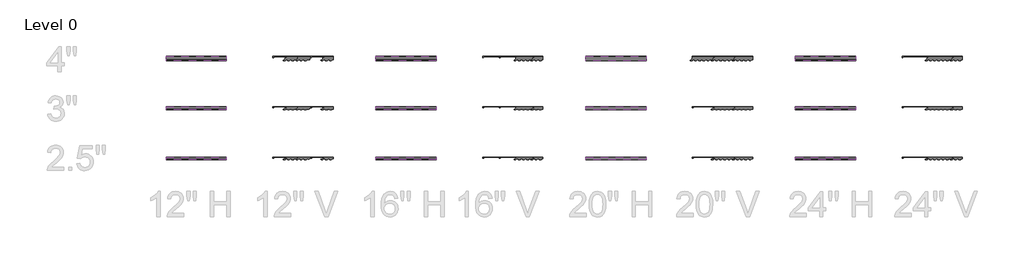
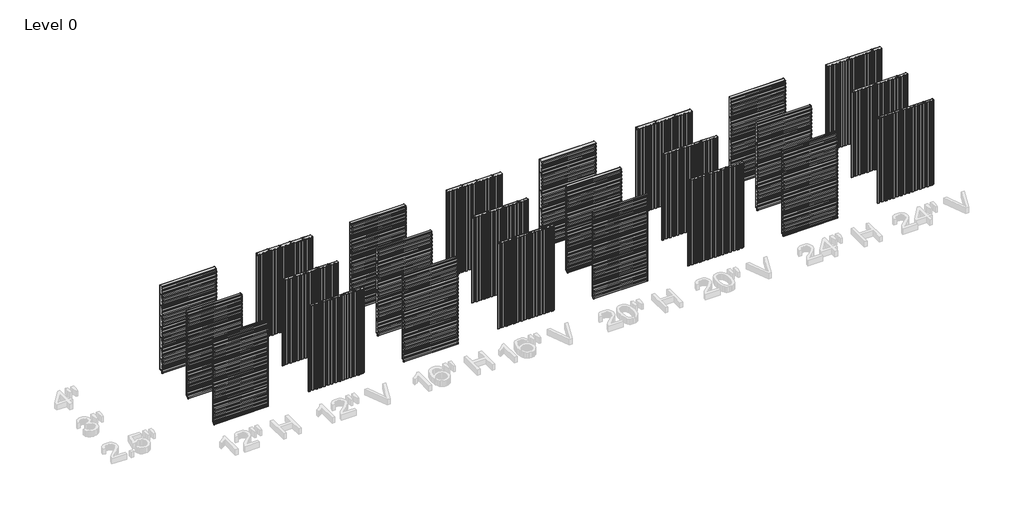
# One storey, part 1 of 4: 114 plates.
"""IFC4 building model written with IfcOpenShell, lengths in millimetres."""

from ifc_helpers import new_model, si_unit, origin, place, context, project, spatial, transform, mapped, element, save
from components import plate_f2263944, plate_a90ba0c7, plate_f76aa271, plate_0d2cc28e, plate_cadf4e08, plate_6dabd823, plate_841f3068, plate_0b422c3b, plate_007a45e4, plate_71929f34, plate_802be9a2, plate_af4c6692, plate_fe4b7c26, plate_03a4a3e5, plate_acb0d70a, plate_0c2debc7, plate_668f9a29, plate_e6cba630, plate_ecc888f3, plate_517b7de6, plate_303e1e0d, plate_3b02127c, plate_610f1c4d, plate_639d0140, plate_8d839006, plate_a0e9844f, plate_41a4497b, plate_4f0dd49a, plate_beac2ef0, plate_59d61003, plate_76acf641, plate_69ded947, plate_04d943ac, plate_1c8a40f6, plate_c36fa436, plate_729f4142, plate_f83834ac, plate_98024638, plate_81f33b46, plate_a3e9c651, plate_fcdffee8, plate_10fc69c3, plate_2a43e05b, plate_eade193c, plate_20f1ea8d

model = new_model("IFC4")

# Units and contexts
model_context = context("Model", 3, world=origin())
ifc_project = project(units=[si_unit("LENGTHUNIT", "METRE", prefix="MILLI")], contexts=[model_context])

# Site, building, storey
site = spatial("IfcSite", under=ifc_project)
building = spatial("IfcBuilding", under=site)
storey = spatial("IfcBuildingStorey", under=building, Name="Level 0", Elevation=0.0)

# Plates
placement = place(None, origin())
plate_shape = plate_f2263944(model_context)
element("IfcPlate", 1, ObjectType="KIP-20-DWR-R19-CP-Hz-S : Hz 2.5\"", at=placement, inside=storey, context=model_context, shape_type="MappedRepresentation", body=[
    mapped(plate_shape, transform((-18943.1576736, 10849.115943, 0.0), x_axis=(1.0, 0.0, 0.0), y_axis=(0.0, 1.0, 0.0), z_axis=(0.0, 0.0, 1.0))),
])
element("IfcPlate", 2, ObjectType="KIP-20-DWR-R19-CP-Hz-S : Hz 2.5\"", at=placement, inside=storey, context=model_context, shape_type="MappedRepresentation", body=[
    mapped(plate_shape, transform((-18943.1576736, 10849.115943, 508.0), x_axis=(1.0, 0.0, 0.0), y_axis=(0.0, 1.0, 0.0), z_axis=(0.0, 0.0, 1.0))),
])
element("IfcPlate", 3, ObjectType="KIP-20-DWR-R19-CP-Hz-S : Hz 2.5\"", at=placement, inside=storey, context=model_context, shape_type="MappedRepresentation", body=[
    mapped(plate_shape, transform((-18943.1576736, 10849.115943, 1016.0), x_axis=(1.0, 0.0, 0.0), y_axis=(0.0, 1.0, 0.0), z_axis=(0.0, 0.0, 1.0))),
])
element("IfcPlate", 4, ObjectType="KIP-20-DWR-R19-CP-Hz-S : Hz 2.5\"", at=placement, inside=storey, context=model_context, shape_type="MappedRepresentation", body=[
    mapped(plate_shape, transform((-18943.1576736, 10849.115943, 1524.0), x_axis=(1.0, 0.0, 0.0), y_axis=(0.0, 1.0, 0.0), z_axis=(0.0, 0.0, 1.0))),
])
plate_2_shape = plate_a90ba0c7(model_context)
element("IfcPlate", 5, ObjectType="KIP-20-DWR-R19-CP-Hz-S : Hz 2.5\"", at=placement, inside=storey, context=model_context, shape_type="MappedRepresentation", body=[
    mapped(plate_2_shape, transform((-18943.1576736, 10849.115943, 2032.0), x_axis=(1.0, 0.0, 0.0), y_axis=(0.0, 1.0, 0.0), z_axis=(0.0, 0.0, 1.0))),
])
plate_3_shape = plate_f76aa271(model_context)
element("IfcPlate", 6, ObjectType="KIP-24-DWR-R19-CP-Hz-S : Hz 2.5\"", at=placement, inside=storey, context=model_context, shape_type="MappedRepresentation", body=[
    mapped(plate_3_shape, transform((-13863.1576736, 10849.115943, 0.0), x_axis=(1.0, 0.0, 0.0), y_axis=(0.0, 1.0, 0.0), z_axis=(0.0, 0.0, 1.0))),
])
element("IfcPlate", 7, ObjectType="KIP-24-DWR-R19-CP-Hz-S : Hz 2.5\"", at=placement, inside=storey, context=model_context, shape_type="MappedRepresentation", body=[
    mapped(plate_3_shape, transform((-13863.1576736, 10849.115943, 609.6), x_axis=(1.0, 0.0, 0.0), y_axis=(0.0, 1.0, 0.0), z_axis=(0.0, 0.0, 1.0))),
])
element("IfcPlate", 8, ObjectType="KIP-24-DWR-R19-CP-Hz-S : Hz 2.5\"", at=placement, inside=storey, context=model_context, shape_type="MappedRepresentation", body=[
    mapped(plate_3_shape, transform((-13863.1576736, 10849.115943, 1219.2), x_axis=(1.0, 0.0, 0.0), y_axis=(0.0, 1.0, 0.0), z_axis=(0.0, 0.0, 1.0))),
])
plate_4_shape = plate_0d2cc28e(model_context)
element("IfcPlate", 9, ObjectType="KIP-24-DWR-R19-CP-Hz-S : Hz 2.5\"", at=placement, inside=storey, context=model_context, shape_type="MappedRepresentation", body=[
    mapped(plate_4_shape, transform((-13863.1576736, 10849.115943, 1828.8), x_axis=(1.0, 0.0, 0.0), y_axis=(0.0, 1.0, 0.0), z_axis=(0.0, 0.0, 1.0))),
])
plate_5_shape = plate_cadf4e08(model_context)
element("IfcPlate", 10, ObjectType="KIP-16-DWR-R19-CP-Hz-S : Hz 2.5\"", at=placement, inside=storey, context=model_context, shape_type="MappedRepresentation", body=[
    mapped(plate_5_shape, transform((-24023.1576736, 10849.115943, 0.0), x_axis=(1.0, 0.0, 0.0), y_axis=(0.0, 1.0, 0.0), z_axis=(0.0, 0.0, 1.0))),
])
element("IfcPlate", 11, ObjectType="KIP-16-DWR-R19-CP-Hz-S : Hz 2.5\"", at=placement, inside=storey, context=model_context, shape_type="MappedRepresentation", body=[
    mapped(plate_5_shape, transform((-24023.1576736, 10849.115943, 406.4), x_axis=(1.0, 0.0, 0.0), y_axis=(0.0, 1.0, 0.0), z_axis=(0.0, 0.0, 1.0))),
])
element("IfcPlate", 12, ObjectType="KIP-16-DWR-R19-CP-Hz-S : Hz 2.5\"", at=placement, inside=storey, context=model_context, shape_type="MappedRepresentation", body=[
    mapped(plate_5_shape, transform((-24023.1576736, 10849.115943, 812.8), x_axis=(1.0, 0.0, 0.0), y_axis=(0.0, 1.0, 0.0), z_axis=(0.0, 0.0, 1.0))),
])
element("IfcPlate", 13, ObjectType="KIP-16-DWR-R19-CP-Hz-S : Hz 2.5\"", at=placement, inside=storey, context=model_context, shape_type="MappedRepresentation", body=[
    mapped(plate_5_shape, transform((-24023.1576736, 10849.115943, 1219.2), x_axis=(1.0, 0.0, 0.0), y_axis=(0.0, 1.0, 0.0), z_axis=(0.0, 0.0, 1.0))),
])
element("IfcPlate", 14, ObjectType="KIP-16-DWR-R19-CP-Hz-S : Hz 2.5\"", at=placement, inside=storey, context=model_context, shape_type="MappedRepresentation", body=[
    mapped(plate_5_shape, transform((-24023.1576736, 10849.115943, 1625.6), x_axis=(1.0, 0.0, 0.0), y_axis=(0.0, 1.0, 0.0), z_axis=(0.0, 0.0, 1.0))),
])
plate_6_shape = plate_6dabd823(model_context)
element("IfcPlate", 15, ObjectType="KIP-12-DWR-R19-CP-Hz-S : Hz 2.5\"", at=placement, inside=storey, context=model_context, shape_type="MappedRepresentation", body=[
    mapped(plate_6_shape, transform((-29103.1576736, 10849.115943, 0.0), x_axis=(1.0, 0.0, 0.0), y_axis=(0.0, 1.0, 0.0), z_axis=(0.0, 0.0, 1.0))),
])
element("IfcPlate", 16, ObjectType="KIP-12-DWR-R19-CP-Hz-S : Hz 2.5\"", at=placement, inside=storey, context=model_context, shape_type="MappedRepresentation", body=[
    mapped(plate_6_shape, transform((-29103.1576736, 10849.115943, 304.8), x_axis=(1.0, 0.0, 0.0), y_axis=(0.0, 1.0, 0.0), z_axis=(0.0, 0.0, 1.0))),
])
element("IfcPlate", 17, ObjectType="KIP-12-DWR-R19-CP-Hz-S : Hz 2.5\"", at=placement, inside=storey, context=model_context, shape_type="MappedRepresentation", body=[
    mapped(plate_6_shape, transform((-29103.1576736, 10849.115943, 609.6), x_axis=(1.0, 0.0, 0.0), y_axis=(0.0, 1.0, 0.0), z_axis=(0.0, 0.0, 1.0))),
])
element("IfcPlate", 18, ObjectType="KIP-12-DWR-R19-CP-Hz-S : Hz 2.5\"", at=placement, inside=storey, context=model_context, shape_type="MappedRepresentation", body=[
    mapped(plate_6_shape, transform((-29103.1576736, 10849.115943, 914.4), x_axis=(1.0, 0.0, 0.0), y_axis=(0.0, 1.0, 0.0), z_axis=(0.0, 0.0, 1.0))),
])
element("IfcPlate", 19, ObjectType="KIP-12-DWR-R19-CP-Hz-S : Hz 2.5\"", at=placement, inside=storey, context=model_context, shape_type="MappedRepresentation", body=[
    mapped(plate_6_shape, transform((-29103.1576736, 10849.115943, 1219.2), x_axis=(1.0, 0.0, 0.0), y_axis=(0.0, 1.0, 0.0), z_axis=(0.0, 0.0, 1.0))),
])
element("IfcPlate", 20, ObjectType="KIP-12-DWR-R19-CP-Hz-S : Hz 2.5\"", at=placement, inside=storey, context=model_context, shape_type="MappedRepresentation", body=[
    mapped(plate_6_shape, transform((-29103.1576736, 10849.115943, 1524.0), x_axis=(1.0, 0.0, 0.0), y_axis=(0.0, 1.0, 0.0), z_axis=(0.0, 0.0, 1.0))),
])
element("IfcPlate", 21, ObjectType="KIP-12-DWR-R19-CP-Hz-S : Hz 2.5\"", at=placement, inside=storey, context=model_context, shape_type="MappedRepresentation", body=[
    mapped(plate_6_shape, transform((-29103.1576736, 10849.115943, 1828.8), x_axis=(1.0, 0.0, 0.0), y_axis=(0.0, 1.0, 0.0), z_axis=(0.0, 0.0, 1.0))),
])
plate_7_shape = plate_841f3068(model_context)
element("IfcPlate", 22, ObjectType="KIP-12-DWR-R19-CP-Hz-S : Hz 2.5\"", at=placement, inside=storey, context=model_context, shape_type="MappedRepresentation", body=[
    mapped(plate_7_shape, transform((-29103.1576736, 10849.115943, 2133.6), x_axis=(1.0, 0.0, 0.0), y_axis=(0.0, 1.0, 0.0), z_axis=(0.0, 0.0, 1.0))),
])
plate_8_shape = plate_0b422c3b(model_context)
element("IfcPlate", 23, ObjectType="KIP-16-DWR-R19-CP-Hz-S : Hz 2.5\"", at=placement, inside=storey, context=model_context, shape_type="MappedRepresentation", body=[
    mapped(plate_8_shape, transform((-24023.1576736, 10849.115943, 2032.0), x_axis=(1.0, 0.0, 0.0), y_axis=(0.0, 1.0, 0.0), z_axis=(0.0, 0.0, 1.0))),
])
plate_9_shape = plate_007a45e4(model_context)
element("IfcPlate", 24, ObjectType="KIP-20-DWR-R19-CP-Hz-S : Hz 3\"", at=placement, inside=storey, context=model_context, shape_type="MappedRepresentation", body=[
    mapped(plate_9_shape, transform((-18943.1576736, 12068.315943, 0.0), x_axis=(1.0, 0.0, 0.0), y_axis=(0.0, 1.0, 0.0), z_axis=(0.0, 0.0, 1.0))),
])
element("IfcPlate", 25, ObjectType="KIP-20-DWR-R19-CP-Hz-S : Hz 3\"", at=placement, inside=storey, context=model_context, shape_type="MappedRepresentation", body=[
    mapped(plate_9_shape, transform((-18943.1576736, 12068.315943, 508.0), x_axis=(1.0, 0.0, 0.0), y_axis=(0.0, 1.0, 0.0), z_axis=(0.0, 0.0, 1.0))),
])
element("IfcPlate", 26, ObjectType="KIP-20-DWR-R19-CP-Hz-S : Hz 3\"", at=placement, inside=storey, context=model_context, shape_type="MappedRepresentation", body=[
    mapped(plate_9_shape, transform((-18943.1576736, 12068.315943, 1016.0), x_axis=(1.0, 0.0, 0.0), y_axis=(0.0, 1.0, 0.0), z_axis=(0.0, 0.0, 1.0))),
])
element("IfcPlate", 27, ObjectType="KIP-20-DWR-R19-CP-Hz-S : Hz 3\"", at=placement, inside=storey, context=model_context, shape_type="MappedRepresentation", body=[
    mapped(plate_9_shape, transform((-18943.1576736, 12068.315943, 1524.0), x_axis=(1.0, 0.0, 0.0), y_axis=(0.0, 1.0, 0.0), z_axis=(0.0, 0.0, 1.0))),
])
plate_10_shape = plate_71929f34(model_context)
element("IfcPlate", 28, ObjectType="KIP-20-DWR-R19-CP-Hz-S : Hz 3\"", at=placement, inside=storey, context=model_context, shape_type="MappedRepresentation", body=[
    mapped(plate_10_shape, transform((-18943.1576736, 12068.315943, 2032.0), x_axis=(1.0, 0.0, 0.0), y_axis=(0.0, 1.0, 0.0), z_axis=(0.0, 0.0, 1.0))),
])
plate_11_shape = plate_802be9a2(model_context)
element("IfcPlate", 29, ObjectType="KIP-24-DWR-R19-CP-Hz-S : Hz 3\"", at=placement, inside=storey, context=model_context, shape_type="MappedRepresentation", body=[
    mapped(plate_11_shape, transform((-13863.1576736, 12068.315943, 0.0), x_axis=(1.0, 0.0, 0.0), y_axis=(0.0, 1.0, 0.0), z_axis=(0.0, 0.0, 1.0))),
])
element("IfcPlate", 30, ObjectType="KIP-24-DWR-R19-CP-Hz-S : Hz 3\"", at=placement, inside=storey, context=model_context, shape_type="MappedRepresentation", body=[
    mapped(plate_11_shape, transform((-13863.1576736, 12068.315943, 609.6), x_axis=(1.0, 0.0, 0.0), y_axis=(0.0, 1.0, 0.0), z_axis=(0.0, 0.0, 1.0))),
])
element("IfcPlate", 31, ObjectType="KIP-24-DWR-R19-CP-Hz-S : Hz 3\"", at=placement, inside=storey, context=model_context, shape_type="MappedRepresentation", body=[
    mapped(plate_11_shape, transform((-13863.1576736, 12068.315943, 1219.2), x_axis=(1.0, 0.0, 0.0), y_axis=(0.0, 1.0, 0.0), z_axis=(0.0, 0.0, 1.0))),
])
plate_12_shape = plate_af4c6692(model_context)
element("IfcPlate", 32, ObjectType="KIP-24-DWR-R19-CP-Hz-S : Hz 3\"", at=placement, inside=storey, context=model_context, shape_type="MappedRepresentation", body=[
    mapped(plate_12_shape, transform((-13863.1576736, 12068.315943, 1828.8), x_axis=(1.0, 0.0, 0.0), y_axis=(0.0, 1.0, 0.0), z_axis=(0.0, 0.0, 1.0))),
])
plate_13_shape = plate_fe4b7c26(model_context)
element("IfcPlate", 33, ObjectType="KIP-16-DWR-R19-CP-Hz-S : Hz 3\"", at=placement, inside=storey, context=model_context, shape_type="MappedRepresentation", body=[
    mapped(plate_13_shape, transform((-24023.1576736, 12068.315943, 0.0), x_axis=(1.0, 0.0, 0.0), y_axis=(0.0, 1.0, 0.0), z_axis=(0.0, 0.0, 1.0))),
])
element("IfcPlate", 34, ObjectType="KIP-16-DWR-R19-CP-Hz-S : Hz 3\"", at=placement, inside=storey, context=model_context, shape_type="MappedRepresentation", body=[
    mapped(plate_13_shape, transform((-24023.1576736, 12068.315943, 406.4), x_axis=(1.0, 0.0, 0.0), y_axis=(0.0, 1.0, 0.0), z_axis=(0.0, 0.0, 1.0))),
])
element("IfcPlate", 35, ObjectType="KIP-16-DWR-R19-CP-Hz-S : Hz 3\"", at=placement, inside=storey, context=model_context, shape_type="MappedRepresentation", body=[
    mapped(plate_13_shape, transform((-24023.1576736, 12068.315943, 812.8), x_axis=(1.0, 0.0, 0.0), y_axis=(0.0, 1.0, 0.0), z_axis=(0.0, 0.0, 1.0))),
])
element("IfcPlate", 36, ObjectType="KIP-16-DWR-R19-CP-Hz-S : Hz 3\"", at=placement, inside=storey, context=model_context, shape_type="MappedRepresentation", body=[
    mapped(plate_13_shape, transform((-24023.1576736, 12068.315943, 1219.2), x_axis=(1.0, 0.0, 0.0), y_axis=(0.0, 1.0, 0.0), z_axis=(0.0, 0.0, 1.0))),
])
element("IfcPlate", 37, ObjectType="KIP-16-DWR-R19-CP-Hz-S : Hz 3\"", at=placement, inside=storey, context=model_context, shape_type="MappedRepresentation", body=[
    mapped(plate_13_shape, transform((-24023.1576736, 12068.315943, 1625.6), x_axis=(1.0, 0.0, 0.0), y_axis=(0.0, 1.0, 0.0), z_axis=(0.0, 0.0, 1.0))),
])
plate_14_shape = plate_03a4a3e5(model_context)
element("IfcPlate", 38, ObjectType="KIP-12-DWR-R19-CP-Hz-S : Hz 3\"", at=placement, inside=storey, context=model_context, shape_type="MappedRepresentation", body=[
    mapped(plate_14_shape, transform((-29103.1576736, 12068.315943, 0.0), x_axis=(1.0, 0.0, 0.0), y_axis=(0.0, 1.0, 0.0), z_axis=(0.0, 0.0, 1.0))),
])
element("IfcPlate", 39, ObjectType="KIP-12-DWR-R19-CP-Hz-S : Hz 3\"", at=placement, inside=storey, context=model_context, shape_type="MappedRepresentation", body=[
    mapped(plate_14_shape, transform((-29103.1576736, 12068.315943, 304.8), x_axis=(1.0, 0.0, 0.0), y_axis=(0.0, 1.0, 0.0), z_axis=(0.0, 0.0, 1.0))),
])
element("IfcPlate", 40, ObjectType="KIP-12-DWR-R19-CP-Hz-S : Hz 3\"", at=placement, inside=storey, context=model_context, shape_type="MappedRepresentation", body=[
    mapped(plate_14_shape, transform((-29103.1576736, 12068.315943, 609.6), x_axis=(1.0, 0.0, 0.0), y_axis=(0.0, 1.0, 0.0), z_axis=(0.0, 0.0, 1.0))),
])
element("IfcPlate", 41, ObjectType="KIP-12-DWR-R19-CP-Hz-S : Hz 3\"", at=placement, inside=storey, context=model_context, shape_type="MappedRepresentation", body=[
    mapped(plate_14_shape, transform((-29103.1576736, 12068.315943, 914.4), x_axis=(1.0, 0.0, 0.0), y_axis=(0.0, 1.0, 0.0), z_axis=(0.0, 0.0, 1.0))),
])
element("IfcPlate", 42, ObjectType="KIP-12-DWR-R19-CP-Hz-S : Hz 3\"", at=placement, inside=storey, context=model_context, shape_type="MappedRepresentation", body=[
    mapped(plate_14_shape, transform((-29103.1576736, 12068.315943, 1219.2), x_axis=(1.0, 0.0, 0.0), y_axis=(0.0, 1.0, 0.0), z_axis=(0.0, 0.0, 1.0))),
])
element("IfcPlate", 43, ObjectType="KIP-12-DWR-R19-CP-Hz-S : Hz 3\"", at=placement, inside=storey, context=model_context, shape_type="MappedRepresentation", body=[
    mapped(plate_14_shape, transform((-29103.1576736, 12068.315943, 1524.0), x_axis=(1.0, 0.0, 0.0), y_axis=(0.0, 1.0, 0.0), z_axis=(0.0, 0.0, 1.0))),
])
element("IfcPlate", 44, ObjectType="KIP-12-DWR-R19-CP-Hz-S : Hz 3\"", at=placement, inside=storey, context=model_context, shape_type="MappedRepresentation", body=[
    mapped(plate_14_shape, transform((-29103.1576736, 12068.315943, 1828.8), x_axis=(1.0, 0.0, 0.0), y_axis=(0.0, 1.0, 0.0), z_axis=(0.0, 0.0, 1.0))),
])
plate_15_shape = plate_acb0d70a(model_context)
element("IfcPlate", 45, ObjectType="KIP-12-DWR-R19-CP-Hz-S : Hz 3\"", at=placement, inside=storey, context=model_context, shape_type="MappedRepresentation", body=[
    mapped(plate_15_shape, transform((-29103.1576736, 12068.315943, 2133.6), x_axis=(1.0, 0.0, 0.0), y_axis=(0.0, 1.0, 0.0), z_axis=(0.0, 0.0, 1.0))),
])
plate_16_shape = plate_0c2debc7(model_context)
element("IfcPlate", 46, ObjectType="KIP-16-DWR-R19-CP-Hz-S : Hz 3\"", at=placement, inside=storey, context=model_context, shape_type="MappedRepresentation", body=[
    mapped(plate_16_shape, transform((-24023.1576736, 12068.315943, 2032.0), x_axis=(1.0, 0.0, 0.0), y_axis=(0.0, 1.0, 0.0), z_axis=(0.0, 0.0, 1.0))),
])
plate_17_shape = plate_668f9a29(model_context)
element("IfcPlate", 47, ObjectType="KIP-20-DWR-R19-CP-Hz-S : Hz 4\"", at=placement, inside=storey, context=model_context, shape_type="MappedRepresentation", body=[
    mapped(plate_17_shape, transform((-18943.1576736, 13287.515943, 0.0), x_axis=(1.0, 0.0, 0.0), y_axis=(0.0, 1.0, 0.0), z_axis=(0.0, 0.0, 1.0))),
])
element("IfcPlate", 48, ObjectType="KIP-20-DWR-R19-CP-Hz-S : Hz 4\"", at=placement, inside=storey, context=model_context, shape_type="MappedRepresentation", body=[
    mapped(plate_17_shape, transform((-18943.1576736, 13287.515943, 508.0), x_axis=(1.0, 0.0, 0.0), y_axis=(0.0, 1.0, 0.0), z_axis=(0.0, 0.0, 1.0))),
])
element("IfcPlate", 49, ObjectType="KIP-20-DWR-R19-CP-Hz-S : Hz 4\"", at=placement, inside=storey, context=model_context, shape_type="MappedRepresentation", body=[
    mapped(plate_17_shape, transform((-18943.1576736, 13287.515943, 1016.0), x_axis=(1.0, 0.0, 0.0), y_axis=(0.0, 1.0, 0.0), z_axis=(0.0, 0.0, 1.0))),
])
element("IfcPlate", 50, ObjectType="KIP-20-DWR-R19-CP-Hz-S : Hz 4\"", at=placement, inside=storey, context=model_context, shape_type="MappedRepresentation", body=[
    mapped(plate_17_shape, transform((-18943.1576736, 13287.515943, 1524.0), x_axis=(1.0, 0.0, 0.0), y_axis=(0.0, 1.0, 0.0), z_axis=(0.0, 0.0, 1.0))),
])
plate_18_shape = plate_e6cba630(model_context)
element("IfcPlate", 51, ObjectType="KIP-20-DWR-R19-CP-Hz-S : Hz 4\"", at=placement, inside=storey, context=model_context, shape_type="MappedRepresentation", body=[
    mapped(plate_18_shape, transform((-18943.1576736, 13287.515943, 2032.0), x_axis=(1.0, 0.0, 0.0), y_axis=(0.0, 1.0, 0.0), z_axis=(0.0, 0.0, 1.0))),
])
plate_19_shape = plate_ecc888f3(model_context)
element("IfcPlate", 52, ObjectType="KIP-24-DWR-R19-CP-Hz-S : Hz 4\"", at=placement, inside=storey, context=model_context, shape_type="MappedRepresentation", body=[
    mapped(plate_19_shape, transform((-13863.1576736, 13287.515943, 0.0), x_axis=(1.0, 0.0, 0.0), y_axis=(0.0, 1.0, 0.0), z_axis=(0.0, 0.0, 1.0))),
])
element("IfcPlate", 53, ObjectType="KIP-24-DWR-R19-CP-Hz-S : Hz 4\"", at=placement, inside=storey, context=model_context, shape_type="MappedRepresentation", body=[
    mapped(plate_19_shape, transform((-13863.1576736, 13287.515943, 609.6), x_axis=(1.0, 0.0, 0.0), y_axis=(0.0, 1.0, 0.0), z_axis=(0.0, 0.0, 1.0))),
])
element("IfcPlate", 54, ObjectType="KIP-24-DWR-R19-CP-Hz-S : Hz 4\"", at=placement, inside=storey, context=model_context, shape_type="MappedRepresentation", body=[
    mapped(plate_19_shape, transform((-13863.1576736, 13287.515943, 1219.2), x_axis=(1.0, 0.0, 0.0), y_axis=(0.0, 1.0, 0.0), z_axis=(0.0, 0.0, 1.0))),
])
plate_20_shape = plate_517b7de6(model_context)
element("IfcPlate", 55, ObjectType="KIP-24-DWR-R19-CP-Hz-S : Hz 4\"", at=placement, inside=storey, context=model_context, shape_type="MappedRepresentation", body=[
    mapped(plate_20_shape, transform((-13863.1576736, 13287.515943, 1828.8), x_axis=(1.0, 0.0, 0.0), y_axis=(0.0, 1.0, 0.0), z_axis=(0.0, 0.0, 1.0))),
])
plate_21_shape = plate_303e1e0d(model_context)
element("IfcPlate", 56, ObjectType="KIP-16-DWR-R19-CP-Hz-S : Hz 4\"", at=placement, inside=storey, context=model_context, shape_type="MappedRepresentation", body=[
    mapped(plate_21_shape, transform((-24023.1576736, 13287.515943, 0.0), x_axis=(1.0, 0.0, 0.0), y_axis=(0.0, 1.0, 0.0), z_axis=(0.0, 0.0, 1.0))),
])
element("IfcPlate", 57, ObjectType="KIP-16-DWR-R19-CP-Hz-S : Hz 4\"", at=placement, inside=storey, context=model_context, shape_type="MappedRepresentation", body=[
    mapped(plate_21_shape, transform((-24023.1576736, 13287.515943, 406.4), x_axis=(1.0, 0.0, 0.0), y_axis=(0.0, 1.0, 0.0), z_axis=(0.0, 0.0, 1.0))),
])
element("IfcPlate", 58, ObjectType="KIP-16-DWR-R19-CP-Hz-S : Hz 4\"", at=placement, inside=storey, context=model_context, shape_type="MappedRepresentation", body=[
    mapped(plate_21_shape, transform((-24023.1576736, 13287.515943, 812.8), x_axis=(1.0, 0.0, 0.0), y_axis=(0.0, 1.0, 0.0), z_axis=(0.0, 0.0, 1.0))),
])
element("IfcPlate", 59, ObjectType="KIP-16-DWR-R19-CP-Hz-S : Hz 4\"", at=placement, inside=storey, context=model_context, shape_type="MappedRepresentation", body=[
    mapped(plate_21_shape, transform((-24023.1576736, 13287.515943, 1219.2), x_axis=(1.0, 0.0, 0.0), y_axis=(0.0, 1.0, 0.0), z_axis=(0.0, 0.0, 1.0))),
])
element("IfcPlate", 60, ObjectType="KIP-16-DWR-R19-CP-Hz-S : Hz 4\"", at=placement, inside=storey, context=model_context, shape_type="MappedRepresentation", body=[
    mapped(plate_21_shape, transform((-24023.1576736, 13287.515943, 1625.6), x_axis=(1.0, 0.0, 0.0), y_axis=(0.0, 1.0, 0.0), z_axis=(0.0, 0.0, 1.0))),
])
plate_22_shape = plate_3b02127c(model_context)
element("IfcPlate", 61, ObjectType="KIP-12-DWR-R19-CP-Hz-S : Hz 4\"", at=placement, inside=storey, context=model_context, shape_type="MappedRepresentation", body=[
    mapped(plate_22_shape, transform((-29103.1576736, 13287.515943, 0.0), x_axis=(1.0, 0.0, 0.0), y_axis=(0.0, 1.0, 0.0), z_axis=(0.0, 0.0, 1.0))),
])
element("IfcPlate", 62, ObjectType="KIP-12-DWR-R19-CP-Hz-S : Hz 4\"", at=placement, inside=storey, context=model_context, shape_type="MappedRepresentation", body=[
    mapped(plate_22_shape, transform((-29103.1576736, 13287.515943, 304.8), x_axis=(1.0, 0.0, 0.0), y_axis=(0.0, 1.0, 0.0), z_axis=(0.0, 0.0, 1.0))),
])
element("IfcPlate", 63, ObjectType="KIP-12-DWR-R19-CP-Hz-S : Hz 4\"", at=placement, inside=storey, context=model_context, shape_type="MappedRepresentation", body=[
    mapped(plate_22_shape, transform((-29103.1576736, 13287.515943, 609.6), x_axis=(1.0, 0.0, 0.0), y_axis=(0.0, 1.0, 0.0), z_axis=(0.0, 0.0, 1.0))),
])
element("IfcPlate", 64, ObjectType="KIP-12-DWR-R19-CP-Hz-S : Hz 4\"", at=placement, inside=storey, context=model_context, shape_type="MappedRepresentation", body=[
    mapped(plate_22_shape, transform((-29103.1576736, 13287.515943, 914.4), x_axis=(1.0, 0.0, 0.0), y_axis=(0.0, 1.0, 0.0), z_axis=(0.0, 0.0, 1.0))),
])
element("IfcPlate", 65, ObjectType="KIP-12-DWR-R19-CP-Hz-S : Hz 4\"", at=placement, inside=storey, context=model_context, shape_type="MappedRepresentation", body=[
    mapped(plate_22_shape, transform((-29103.1576736, 13287.515943, 1219.2), x_axis=(1.0, 0.0, 0.0), y_axis=(0.0, 1.0, 0.0), z_axis=(0.0, 0.0, 1.0))),
])
element("IfcPlate", 66, ObjectType="KIP-12-DWR-R19-CP-Hz-S : Hz 4\"", at=placement, inside=storey, context=model_context, shape_type="MappedRepresentation", body=[
    mapped(plate_22_shape, transform((-29103.1576736, 13287.515943, 1524.0), x_axis=(1.0, 0.0, 0.0), y_axis=(0.0, 1.0, 0.0), z_axis=(0.0, 0.0, 1.0))),
])
element("IfcPlate", 67, ObjectType="KIP-12-DWR-R19-CP-Hz-S : Hz 4\"", at=placement, inside=storey, context=model_context, shape_type="MappedRepresentation", body=[
    mapped(plate_22_shape, transform((-29103.1576736, 13287.515943, 1828.8), x_axis=(1.0, 0.0, 0.0), y_axis=(0.0, 1.0, 0.0), z_axis=(0.0, 0.0, 1.0))),
])
plate_23_shape = plate_610f1c4d(model_context)
element("IfcPlate", 68, ObjectType="KIP-12-DWR-R19-CP-Hz-S : Hz 4\"", at=placement, inside=storey, context=model_context, shape_type="MappedRepresentation", body=[
    mapped(plate_23_shape, transform((-29103.1576736, 13287.515943, 2133.6), x_axis=(1.0, 0.0, 0.0), y_axis=(0.0, 1.0, 0.0), z_axis=(0.0, 0.0, 1.0))),
])
plate_24_shape = plate_639d0140(model_context)
element("IfcPlate", 69, ObjectType="KIP-16-DWR-R19-CP-Hz-S : Hz 4\"", at=placement, inside=storey, context=model_context, shape_type="MappedRepresentation", body=[
    mapped(plate_24_shape, transform((-24023.1576736, 13287.515943, 2032.0), x_axis=(1.0, 0.0, 0.0), y_axis=(0.0, 1.0, 0.0), z_axis=(0.0, 0.0, 1.0))),
])
plate_25_shape = plate_8d839006(model_context)
element("IfcPlate", 70, ObjectType="KIP-20-DWR-R19-CP-Vt-S : Vt 2.5\"", at=placement, inside=storey, context=model_context, shape_type="MappedRepresentation", body=[
    mapped(plate_25_shape, transform((-16838.9413834, 10849.115943, 0.0), x_axis=(1.0, 0.0, 0.0), y_axis=(0.0, 1.0, 0.0), z_axis=(0.0, 0.0, 1.0))),
])
element("IfcPlate", 71, ObjectType="KIP-20-DWR-R19-CP-Vt-S : Vt 2.5\"", at=placement, inside=storey, context=model_context, shape_type="MappedRepresentation", body=[
    mapped(plate_25_shape, transform((-16330.9413833, 10849.115943, 0.0), x_axis=(1.0, 0.0, 0.0), y_axis=(0.0, 1.0, 0.0), z_axis=(0.0, 0.0, 1.0))),
])
plate_26_shape = plate_a0e9844f(model_context)
element("IfcPlate", 72, ObjectType="KIP-20-DWR-R19-CP-Vt-S : Vt 2.5\"", at=placement, inside=storey, context=model_context, shape_type="MappedRepresentation", body=[
    mapped(plate_26_shape, transform((-15854.9413834, 10849.115943, 0.0), x_axis=(1.0, 0.0, 0.0), y_axis=(0.0, 1.0, 0.0), z_axis=(0.0, 0.0, 1.0))),
])
plate_27_shape = plate_41a4497b(model_context)
element("IfcPlate", 73, ObjectType="KIP-24-DWR-R19-CP-Vt-S : Vt 2.5\"", at=placement, inside=storey, context=model_context, shape_type="MappedRepresentation", body=[
    mapped(plate_27_shape, transform((-11708.1413834, 10849.115943, 0.0), x_axis=(1.0, 0.0, 0.0), y_axis=(0.0, 1.0, 0.0), z_axis=(0.0, 0.0, 1.0))),
])
element("IfcPlate", 74, ObjectType="KIP-24-DWR-R19-CP-Vt-S : Vt 2.5\"", at=placement, inside=storey, context=model_context, shape_type="MappedRepresentation", body=[
    mapped(plate_27_shape, transform((-11098.5413833, 10849.115943, 0.0), x_axis=(1.0, 0.0, 0.0), y_axis=(0.0, 1.0, 0.0), z_axis=(0.0, 0.0, 1.0))),
])
plate_28_shape = plate_4f0dd49a(model_context)
element("IfcPlate", 75, ObjectType="KIP-24-DWR-R19-CP-Vt-S : Vt 2.5\"", at=placement, inside=storey, context=model_context, shape_type="MappedRepresentation", body=[
    mapped(plate_28_shape, transform((-10673.3413834, 10849.115943, 0.0), x_axis=(1.0, 0.0, 0.0), y_axis=(0.0, 1.0, 0.0), z_axis=(0.0, 0.0, 1.0))),
])
plate_29_shape = plate_beac2ef0(model_context)
element("IfcPlate", 76, ObjectType="KIP-16-DWR-R19-CP-Vt-S : Vt 2.5\"", at=placement, inside=storey, context=model_context, shape_type="MappedRepresentation", body=[
    mapped(plate_29_shape, transform((-21969.7413834, 10849.115943, 0.0), x_axis=(1.0, 0.0, 0.0), y_axis=(0.0, 1.0, 0.0), z_axis=(0.0, 0.0, 1.0))),
])
element("IfcPlate", 77, ObjectType="KIP-16-DWR-R19-CP-Vt-S : Vt 2.5\"", at=placement, inside=storey, context=model_context, shape_type="MappedRepresentation", body=[
    mapped(plate_29_shape, transform((-21156.9413833, 10849.115943, 0.0), x_axis=(1.0, 0.0, 0.0), y_axis=(0.0, 1.0, 0.0), z_axis=(0.0, 0.0, 1.0))),
])
element("IfcPlate", 78, ObjectType="KIP-16-DWR-R19-CP-Vt-S : Vt 2.5\"", at=placement, inside=storey, context=model_context, shape_type="MappedRepresentation", body=[
    mapped(plate_29_shape, transform((-21563.3413833, 10849.115943, 0.0), x_axis=(1.0, 0.0, 0.0), y_axis=(0.0, 1.0, 0.0), z_axis=(0.0, 0.0, 1.0))),
])
plate_30_shape = plate_59d61003(model_context)
element("IfcPlate", 79, ObjectType="KIP-16-DWR-R19-CP-Vt-S : Vt 2.5\"", at=placement, inside=storey, context=model_context, shape_type="MappedRepresentation", body=[
    mapped(plate_30_shape, transform((-20833.3413834, 10849.115943, 0.0), x_axis=(1.0, 0.0, 0.0), y_axis=(0.0, 1.0, 0.0), z_axis=(0.0, 0.0, 1.0))),
])
plate_31_shape = plate_76acf641(model_context)
element("IfcPlate", 80, ObjectType="KIP-12-DWR-R19-CP-Vt-S : Vt 2.5\"", at=placement, inside=storey, context=model_context, shape_type="MappedRepresentation", body=[
    mapped(plate_31_shape, transform((-27100.5413834, 10849.115943, 0.0), x_axis=(1.0, 0.0, 0.0), y_axis=(0.0, 1.0, 0.0), z_axis=(0.0, 0.0, 1.0))),
])
element("IfcPlate", 81, ObjectType="KIP-12-DWR-R19-CP-Vt-S : Vt 2.5\"", at=placement, inside=storey, context=model_context, shape_type="MappedRepresentation", body=[
    mapped(plate_31_shape, transform((-26186.1413833, 10849.115943, 0.0), x_axis=(1.0, 0.0, 0.0), y_axis=(0.0, 1.0, 0.0), z_axis=(0.0, 0.0, 1.0))),
])
element("IfcPlate", 82, ObjectType="KIP-12-DWR-R19-CP-Vt-S : Vt 2.5\"", at=placement, inside=storey, context=model_context, shape_type="MappedRepresentation", body=[
    mapped(plate_31_shape, transform((-26490.9413833, 10849.115943, 0.0), x_axis=(1.0, 0.0, 0.0), y_axis=(0.0, 1.0, 0.0), z_axis=(0.0, 0.0, 1.0))),
])
element("IfcPlate", 83, ObjectType="KIP-12-DWR-R19-CP-Vt-S : Vt 2.5\"", at=placement, inside=storey, context=model_context, shape_type="MappedRepresentation", body=[
    mapped(plate_31_shape, transform((-26795.7413833, 10849.115943, 0.0), x_axis=(1.0, 0.0, 0.0), y_axis=(0.0, 1.0, 0.0), z_axis=(0.0, 0.0, 1.0))),
])
element("IfcPlate", 84, ObjectType="KIP-12-DWR-R19-CP-Vt-S : Vt 2.5\"", at=placement, inside=storey, context=model_context, shape_type="MappedRepresentation", body=[
    mapped(plate_28_shape, transform((-25913.3413834, 10849.115943, 0.0), x_axis=(1.0, 0.0, 0.0), y_axis=(0.0, 1.0, 0.0), z_axis=(0.0, 0.0, 1.0))),
])
plate_32_shape = plate_69ded947(model_context)
element("IfcPlate", 85, ObjectType="KIP-20-DWR-R19-CP-Vt-S : Vt 3\"", at=placement, inside=storey, context=model_context, shape_type="MappedRepresentation", body=[
    mapped(plate_32_shape, transform((-16838.9413834, 12068.315943, 0.0), x_axis=(1.0, 0.0, 0.0), y_axis=(0.0, 1.0, 0.0), z_axis=(0.0, 0.0, 1.0))),
])
element("IfcPlate", 86, ObjectType="KIP-20-DWR-R19-CP-Vt-S : Vt 3\"", at=placement, inside=storey, context=model_context, shape_type="MappedRepresentation", body=[
    mapped(plate_32_shape, transform((-16330.9413833, 12068.315943, 0.0), x_axis=(1.0, 0.0, 0.0), y_axis=(0.0, 1.0, 0.0), z_axis=(0.0, 0.0, 1.0))),
])
plate_33_shape = plate_04d943ac(model_context)
element("IfcPlate", 87, ObjectType="KIP-20-DWR-R19-CP-Vt-S : Vt 3\"", at=placement, inside=storey, context=model_context, shape_type="MappedRepresentation", body=[
    mapped(plate_33_shape, transform((-15854.9413834, 12068.315943, 0.0), x_axis=(1.0, 0.0, 0.0), y_axis=(0.0, 1.0, 0.0), z_axis=(0.0, 0.0, 1.0))),
])
plate_34_shape = plate_1c8a40f6(model_context)
element("IfcPlate", 88, ObjectType="KIP-24-DWR-R19-CP-Vt-S : Vt 3\"", at=placement, inside=storey, context=model_context, shape_type="MappedRepresentation", body=[
    mapped(plate_34_shape, transform((-11708.1413834, 12068.315943, 0.0), x_axis=(1.0, 0.0, 0.0), y_axis=(0.0, 1.0, 0.0), z_axis=(0.0, 0.0, 1.0))),
])
element("IfcPlate", 89, ObjectType="KIP-24-DWR-R19-CP-Vt-S : Vt 3\"", at=placement, inside=storey, context=model_context, shape_type="MappedRepresentation", body=[
    mapped(plate_34_shape, transform((-11098.5413833, 12068.315943, 0.0), x_axis=(1.0, 0.0, 0.0), y_axis=(0.0, 1.0, 0.0), z_axis=(0.0, 0.0, 1.0))),
])
plate_35_shape = plate_c36fa436(model_context)
element("IfcPlate", 90, ObjectType="KIP-24-DWR-R19-CP-Vt-S : Vt 3\"", at=placement, inside=storey, context=model_context, shape_type="MappedRepresentation", body=[
    mapped(plate_35_shape, transform((-10673.3413834, 12068.315943, 0.0), x_axis=(1.0, 0.0, 0.0), y_axis=(0.0, 1.0, 0.0), z_axis=(0.0, 0.0, 1.0))),
])
plate_36_shape = plate_729f4142(model_context)
element("IfcPlate", 91, ObjectType="KIP-16-DWR-R19-CP-Vt-S : Vt 3\"", at=placement, inside=storey, context=model_context, shape_type="MappedRepresentation", body=[
    mapped(plate_36_shape, transform((-21969.7413834, 12068.315943, 0.0), x_axis=(1.0, 0.0, 0.0), y_axis=(0.0, 1.0, 0.0), z_axis=(0.0, 0.0, 1.0))),
])
element("IfcPlate", 92, ObjectType="KIP-16-DWR-R19-CP-Vt-S : Vt 3\"", at=placement, inside=storey, context=model_context, shape_type="MappedRepresentation", body=[
    mapped(plate_36_shape, transform((-21156.9413833, 12068.315943, 0.0), x_axis=(1.0, 0.0, 0.0), y_axis=(0.0, 1.0, 0.0), z_axis=(0.0, 0.0, 1.0))),
])
element("IfcPlate", 93, ObjectType="KIP-16-DWR-R19-CP-Vt-S : Vt 3\"", at=placement, inside=storey, context=model_context, shape_type="MappedRepresentation", body=[
    mapped(plate_36_shape, transform((-21563.3413833, 12068.315943, 0.0), x_axis=(1.0, 0.0, 0.0), y_axis=(0.0, 1.0, 0.0), z_axis=(0.0, 0.0, 1.0))),
])
plate_37_shape = plate_f83834ac(model_context)
element("IfcPlate", 94, ObjectType="KIP-16-DWR-R19-CP-Vt-S : Vt 3\"", at=placement, inside=storey, context=model_context, shape_type="MappedRepresentation", body=[
    mapped(plate_37_shape, transform((-20833.3413834, 12068.315943, 0.0), x_axis=(1.0, 0.0, 0.0), y_axis=(0.0, 1.0, 0.0), z_axis=(0.0, 0.0, 1.0))),
])
plate_38_shape = plate_98024638(model_context)
element("IfcPlate", 95, ObjectType="KIP-12-DWR-R19-CP-Vt-S : Vt 3\"", at=placement, inside=storey, context=model_context, shape_type="MappedRepresentation", body=[
    mapped(plate_38_shape, transform((-27100.5413834, 12068.315943, 0.0), x_axis=(1.0, 0.0, 0.0), y_axis=(0.0, 1.0, 0.0), z_axis=(0.0, 0.0, 1.0))),
])
element("IfcPlate", 96, ObjectType="KIP-12-DWR-R19-CP-Vt-S : Vt 3\"", at=placement, inside=storey, context=model_context, shape_type="MappedRepresentation", body=[
    mapped(plate_38_shape, transform((-26186.1413833, 12068.315943, 0.0), x_axis=(1.0, 0.0, 0.0), y_axis=(0.0, 1.0, 0.0), z_axis=(0.0, 0.0, 1.0))),
])
element("IfcPlate", 97, ObjectType="KIP-12-DWR-R19-CP-Vt-S : Vt 3\"", at=placement, inside=storey, context=model_context, shape_type="MappedRepresentation", body=[
    mapped(plate_38_shape, transform((-26490.9413833, 12068.315943, 0.0), x_axis=(1.0, 0.0, 0.0), y_axis=(0.0, 1.0, 0.0), z_axis=(0.0, 0.0, 1.0))),
])
element("IfcPlate", 98, ObjectType="KIP-12-DWR-R19-CP-Vt-S : Vt 3\"", at=placement, inside=storey, context=model_context, shape_type="MappedRepresentation", body=[
    mapped(plate_38_shape, transform((-26795.7413833, 12068.315943, 0.0), x_axis=(1.0, 0.0, 0.0), y_axis=(0.0, 1.0, 0.0), z_axis=(0.0, 0.0, 1.0))),
])
element("IfcPlate", 99, ObjectType="KIP-12-DWR-R19-CP-Vt-S : Vt 3\"", at=placement, inside=storey, context=model_context, shape_type="MappedRepresentation", body=[
    mapped(plate_35_shape, transform((-25913.3413834, 12068.315943, 0.0), x_axis=(1.0, 0.0, 0.0), y_axis=(0.0, 1.0, 0.0), z_axis=(0.0, 0.0, 1.0))),
])
plate_39_shape = plate_81f33b46(model_context)
element("IfcPlate", 100, ObjectType="KIP-20-DWR-R19-CP-Vt-S : Vt 4\"", at=placement, inside=storey, context=model_context, shape_type="MappedRepresentation", body=[
    mapped(plate_39_shape, transform((-16838.8413834, 13287.515943, 0.0), x_axis=(1.0, 0.0, 0.0), y_axis=(0.0, 1.0, 0.0), z_axis=(0.0, 0.0, 1.0))),
])
element("IfcPlate", 101, ObjectType="KIP-20-DWR-R19-CP-Vt-S : Vt 4\"", at=placement, inside=storey, context=model_context, shape_type="MappedRepresentation", body=[
    mapped(plate_39_shape, transform((-16330.6413833, 13287.515943, 0.0), x_axis=(1.0, 0.0, 0.0), y_axis=(0.0, 1.0, 0.0), z_axis=(0.0, 0.0, 1.0))),
])
plate_40_shape = plate_a3e9c651(model_context)
element("IfcPlate", 102, ObjectType="KIP-20-DWR-R19-CP-Vt-S : Vt 4\"", at=placement, inside=storey, context=model_context, shape_type="MappedRepresentation", body=[
    mapped(plate_40_shape, transform((-15854.7413834, 13287.515943, 0.0), x_axis=(1.0, 0.0, 0.0), y_axis=(0.0, 1.0, 0.0), z_axis=(0.0, 0.0, 1.0))),
])
plate_41_shape = plate_fcdffee8(model_context)
element("IfcPlate", 103, ObjectType="KIP-24-DWR-R19-CP-Vt-S : Vt 4\"", at=placement, inside=storey, context=model_context, shape_type="MappedRepresentation", body=[
    mapped(plate_41_shape, transform((-11708.1413834, 13287.515943, 0.0), x_axis=(1.0, 0.0, 0.0), y_axis=(0.0, 1.0, 0.0), z_axis=(0.0, 0.0, 1.0))),
])
element("IfcPlate", 104, ObjectType="KIP-24-DWR-R19-CP-Vt-S : Vt 4\"", at=placement, inside=storey, context=model_context, shape_type="MappedRepresentation", body=[
    mapped(plate_41_shape, transform((-11098.5413833, 13287.515943, 0.0), x_axis=(1.0, 0.0, 0.0), y_axis=(0.0, 1.0, 0.0), z_axis=(0.0, 0.0, 1.0))),
])
plate_42_shape = plate_10fc69c3(model_context)
element("IfcPlate", 105, ObjectType="KIP-24-DWR-R19-CP-Vt-S : Vt 4\"", at=placement, inside=storey, context=model_context, shape_type="MappedRepresentation", body=[
    mapped(plate_42_shape, transform((-10673.3413834, 13287.515943, 0.0), x_axis=(1.0, 0.0, 0.0), y_axis=(0.0, 1.0, 0.0), z_axis=(0.0, 0.0, 1.0))),
])
plate_43_shape = plate_2a43e05b(model_context)
element("IfcPlate", 106, ObjectType="KIP-16-DWR-R19-CP-Vt-S : Vt 4\"", at=placement, inside=storey, context=model_context, shape_type="MappedRepresentation", body=[
    mapped(plate_43_shape, transform((-21969.7413834, 13287.515943, 0.0), x_axis=(1.0, 0.0, 0.0), y_axis=(0.0, 1.0, 0.0), z_axis=(0.0, 0.0, 1.0))),
])
element("IfcPlate", 107, ObjectType="KIP-16-DWR-R19-CP-Vt-S : Vt 4\"", at=placement, inside=storey, context=model_context, shape_type="MappedRepresentation", body=[
    mapped(plate_43_shape, transform((-21156.9413833, 13287.515943, 0.0), x_axis=(1.0, 0.0, 0.0), y_axis=(0.0, 1.0, 0.0), z_axis=(0.0, 0.0, 1.0))),
])
element("IfcPlate", 108, ObjectType="KIP-16-DWR-R19-CP-Vt-S : Vt 4\"", at=placement, inside=storey, context=model_context, shape_type="MappedRepresentation", body=[
    mapped(plate_43_shape, transform((-21563.3413833, 13287.515943, 0.0), x_axis=(1.0, 0.0, 0.0), y_axis=(0.0, 1.0, 0.0), z_axis=(0.0, 0.0, 1.0))),
])
plate_44_shape = plate_eade193c(model_context)
element("IfcPlate", 109, ObjectType="KIP-16-DWR-R19-CP-Vt-S : Vt 4\"", at=placement, inside=storey, context=model_context, shape_type="MappedRepresentation", body=[
    mapped(plate_44_shape, transform((-20833.3413834, 13287.515943, 0.0), x_axis=(1.0, 0.0, 0.0), y_axis=(0.0, 1.0, 0.0), z_axis=(0.0, 0.0, 1.0))),
])
plate_45_shape = plate_20f1ea8d(model_context)
element("IfcPlate", 110, ObjectType="KIP-12-DWR-R19-CP-Vt-S : Vt 4\"", at=placement, inside=storey, context=model_context, shape_type="MappedRepresentation", body=[
    mapped(plate_45_shape, transform((-27100.5413834, 13287.515943, 0.0), x_axis=(1.0, 0.0, 0.0), y_axis=(0.0, 1.0, 0.0), z_axis=(0.0, 0.0, 1.0))),
])
element("IfcPlate", 111, ObjectType="KIP-12-DWR-R19-CP-Vt-S : Vt 4\"", at=placement, inside=storey, context=model_context, shape_type="MappedRepresentation", body=[
    mapped(plate_45_shape, transform((-26186.1413833, 13287.515943, 0.0), x_axis=(1.0, 0.0, 0.0), y_axis=(0.0, 1.0, 0.0), z_axis=(0.0, 0.0, 1.0))),
])
element("IfcPlate", 112, ObjectType="KIP-12-DWR-R19-CP-Vt-S : Vt 4\"", at=placement, inside=storey, context=model_context, shape_type="MappedRepresentation", body=[
    mapped(plate_45_shape, transform((-26490.9413833, 13287.515943, 0.0), x_axis=(1.0, 0.0, 0.0), y_axis=(0.0, 1.0, 0.0), z_axis=(0.0, 0.0, 1.0))),
])
element("IfcPlate", 113, ObjectType="KIP-12-DWR-R19-CP-Vt-S : Vt 4\"", at=placement, inside=storey, context=model_context, shape_type="MappedRepresentation", body=[
    mapped(plate_45_shape, transform((-26795.7413833, 13287.515943, 0.0), x_axis=(1.0, 0.0, 0.0), y_axis=(0.0, 1.0, 0.0), z_axis=(0.0, 0.0, 1.0))),
])
element("IfcPlate", 114, ObjectType="KIP-12-DWR-R19-CP-Vt-S : Vt 4\"", at=placement, inside=storey, context=model_context, shape_type="MappedRepresentation", body=[
    mapped(plate_42_shape, transform((-25913.3413834, 13287.515943, 0.0), x_axis=(1.0, 0.0, 0.0), y_axis=(0.0, 1.0, 0.0), z_axis=(0.0, 0.0, 1.0))),
])

save(model, "model.ifc")
